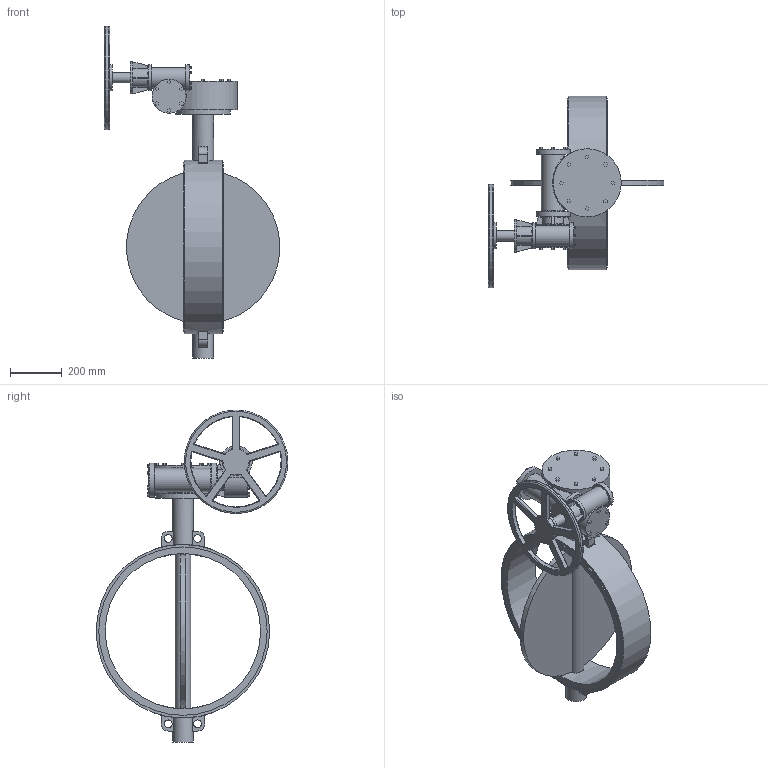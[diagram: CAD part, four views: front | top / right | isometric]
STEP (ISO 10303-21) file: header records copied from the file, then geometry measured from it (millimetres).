
FILE_DESCRIPTION(('STEP AP203'), '1');
FILE_NAME('青蜮铕 017W.YS_DN600_PN10_疱潴牝铕', '', ('UNSPECIFIED'), ('UNSPECIFIED'), 'ASCON STEP Converter 1.6', 'ASCON Math Kernel', '');
FILE_SCHEMA(('CONFIG_CONTROL_DESIGN'));
Length unit declared in the file: millimetre
Bounding box: 676.64 x 740 x 1282 mm (x, y, z)
Volume: 30693123.1 mm3; surface area: 2084757.5 mm2
Topology: 1 solids, 1 shells, 596 faces, 1472 edges, 945 vertices
Faces by surface type: plane 403, cylinder 107, torus 76, cone 8, bspline 2
Full cylindrical faces by diameter (mm): 15.294 x4, 22 x4, 30 x4, 40 x1, 60 x1, 80 x3, 91 x1, 100 x3, 125 x1, 131 x3, 210 x1, 263 x1, 400 x1, 600 x1, 650 x2, 670 x1
Entity records: 24741 total; most frequent: CARTESIAN_POINT 5743, DIRECTION 2930, ORIENTED_EDGE 2842, EDGE_CURVE 1421, LINE 1014, VECTOR 1014, AXIS2_PLACEMENT_3D 958, VERTEX_POINT 941
